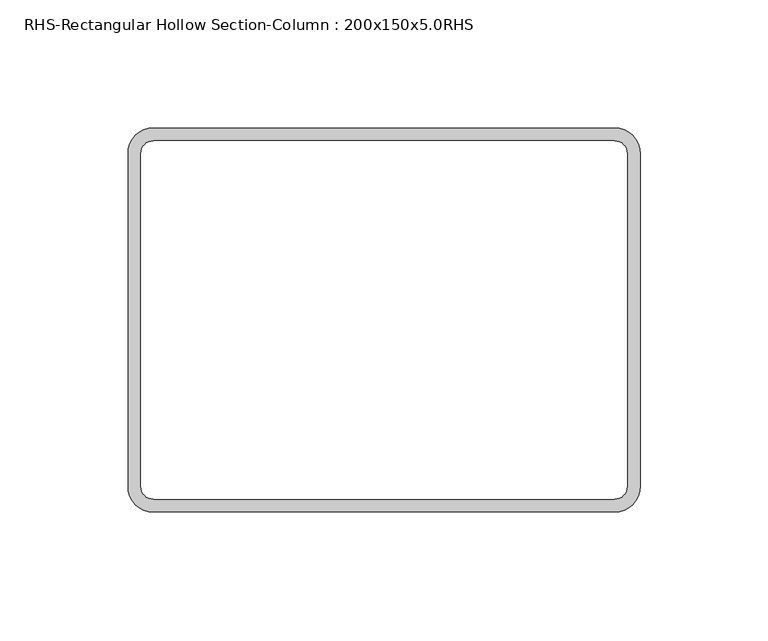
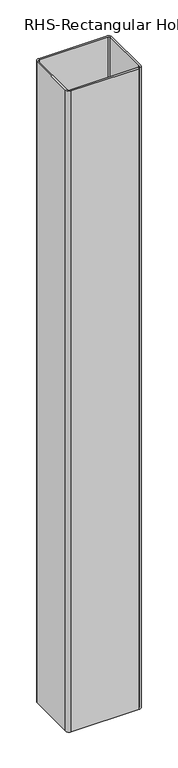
"""IFC4 building model written with IfcOpenShell, lengths in millimetres: column geometry, RHS-Rectangular Hollow Section-Column : 200x150x5.0RHS."""

from ifc_helpers import new_model, si_unit, point, frame, frame_2d, origin, place, context, project, spatial, polyline, circle_curve, trimmed, segment, composite_curve, outline, extrude, source, transform, mapped, element, save


def rhs_rectangular_hollow_section_column_200x150x5_0rhs_70543165(model_context):
    return source(origin(), model_context, "Body", "SweptSolid", [
        extrude(outline(composite_curve([segment(trimmed(circle_curve(frame_2d((90.0, 65.0)), 10.0), [point((90.0, 75.0))], [point((100.0, 65.0))], False, "CARTESIAN"), True, "CONTINUOUS"), segment(polyline([(100.0, 65.0), (100.0, -65.0)]), True, "CONTINUOUS"), segment(trimmed(circle_curve(frame_2d((90.0, -65.0)), 10.0), [point((100.0, -65.0))], [point((90.0, -75.0))], False, "CARTESIAN"), True, "CONTINUOUS"), segment(polyline([(90.0, -75.0), (-90.0, -75.0)]), True, "CONTINUOUS"), segment(trimmed(circle_curve(frame_2d((-90.0, -65.0)), 10.0), [point((-90.0, -75.0))], [point((-100.0, -65.0))], False, "CARTESIAN"), True, "CONTINUOUS"), segment(polyline([(-100.0, -65.0), (-100.0, 65.0)]), True, "CONTINUOUS"), segment(trimmed(circle_curve(frame_2d((-90.0, 65.0)), 10.0), [point((-100.0, 65.0))], [point((-90.0, 75.0))], False, "CARTESIAN"), True, "CONTINUOUS"), segment(polyline([(-90.0, 75.0), (90.0, 75.0)]), True, "CONTINUOUS")], self_intersect=False), holes=[composite_curve([segment(polyline([(90.0, 70.0), (-90.0, 70.0)]), True, "CONTINUOUS"), segment(trimmed(circle_curve(frame_2d((-90.0, 65.0)), 5.0), [point((-90.0, 70.0))], [point((-95.0, 65.0))], True, "CARTESIAN"), True, "CONTINUOUS"), segment(polyline([(-95.0, 65.0), (-95.0, -65.0)]), True, "CONTINUOUS"), segment(trimmed(circle_curve(frame_2d((-90.0, -65.0)), 5.0), [point((-95.0, -65.0))], [point((-90.0, -70.0))], True, "CARTESIAN"), True, "CONTINUOUS"), segment(polyline([(-90.0, -70.0), (90.0, -70.0)]), True, "CONTINUOUS"), segment(trimmed(circle_curve(frame_2d((90.0, -65.0)), 5.0), [point((90.0, -70.0))], [point((95.0, -65.0))], True, "CARTESIAN"), True, "CONTINUOUS"), segment(polyline([(95.0, -65.0), (95.0, 65.0)]), True, "CONTINUOUS"), segment(trimmed(circle_curve(frame_2d((90.0, 65.0)), 5.0), [point((95.0, 65.0))], [point((90.0, 70.0))], True, "CARTESIAN"), True, "CONTINUOUS")], self_intersect=False)]), frame((0.0, 0.0, 22110.0), z_axis=(0.0, 0.0, 1.0), x_axis=(1.0, 0.0, 0.0)), (0.0, 0.0, 1.0), 1800.0),
    ])


if __name__ == "__main__":
    model = new_model("IFC4")
    model_context = context("Model", 3, world=origin())
    ifc_project = project(units=[si_unit("LENGTHUNIT", "METRE", prefix="MILLI")], contexts=[model_context])
    site = spatial("IfcSite", under=ifc_project)
    building = spatial("IfcBuilding", under=site)
    placement = place(None, origin())
    rhs_rectangular_hollow_section_column_200x150x5_0rhs_shape = rhs_rectangular_hollow_section_column_200x150x5_0rhs_70543165(model_context)
    element("IfcColumn", 1, ObjectType="RHS-Rectangular Hollow Section-Column : 200x150x5.0RHS", at=placement, inside=building, context=model_context, shape_type="MappedRepresentation", body=[
        mapped(rhs_rectangular_hollow_section_column_200x150x5_0rhs_shape, transform((0.0, 0.0, 0.0), x_axis=(1.0, 0.0, 0.0), y_axis=(0.0, 1.0, 0.0), z_axis=(0.0, 0.0, 1.0))),
    ])
    save(model, "model.ifc")
